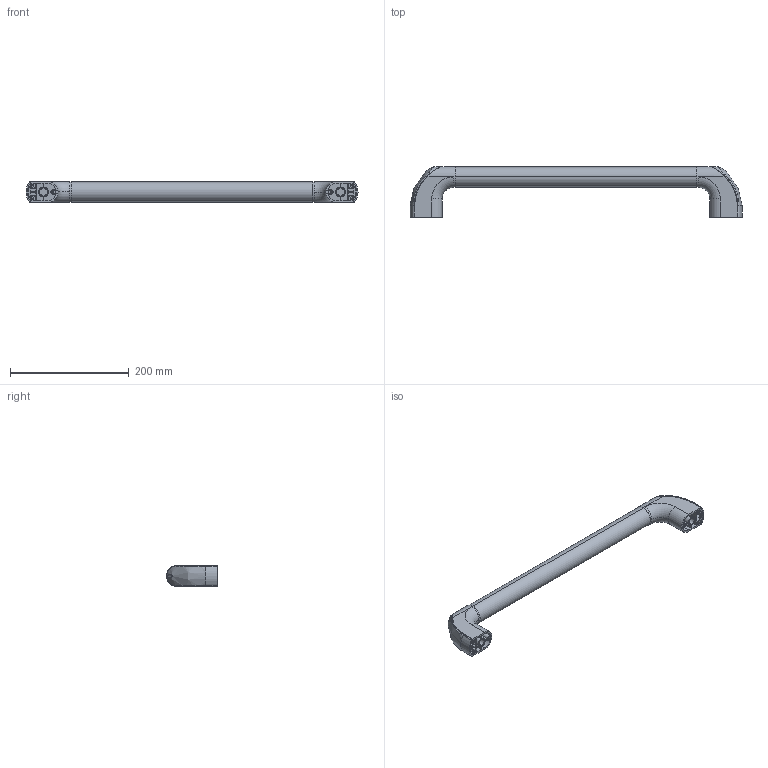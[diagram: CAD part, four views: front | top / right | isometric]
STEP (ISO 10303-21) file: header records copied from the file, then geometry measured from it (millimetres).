
FILE_DESCRIPTION (( 'STEP AP203' ), '1' );
FILE_NAME ('SK4-224-34-500C.STEP', '2017-12-20T07:55:22', ( 'admin' ), ( 'Microsoft' ), 'SwSTEP 2.0', 'SolidWorks 2015', '' );
FILE_SCHEMA (( 'CONFIG_CONTROL_DESIGN' ));
Length unit declared in the file: millimetre
Products named in the file (3): SK4-224-34釱赽; SK4-224-34-500C
Assembly tree (3 placements, depth 2):
  SK4-224-34-500C
    SK4-224-34釱赽  x2
    SK4-224-34-500C
Bounding box: 559 x 85.5 x 35 mm (x, y, z)
Volume: 621882 mm3; surface area: 97439.3 mm2
Topology: 3 solids, 3 shells, 272 faces, 714 edges, 460 vertices
Faces by surface type: plane 174, cylinder 56, bspline 38, torus 4
Entity records: 5919 total; most frequent: CARTESIAN_POINT 2306, ORIENTED_EDGE 716, DIRECTION 624, EDGE_CURVE 358, LINE 258, VECTOR 258, VERTEX_POINT 232, AXIS2_PLACEMENT_3D 183
